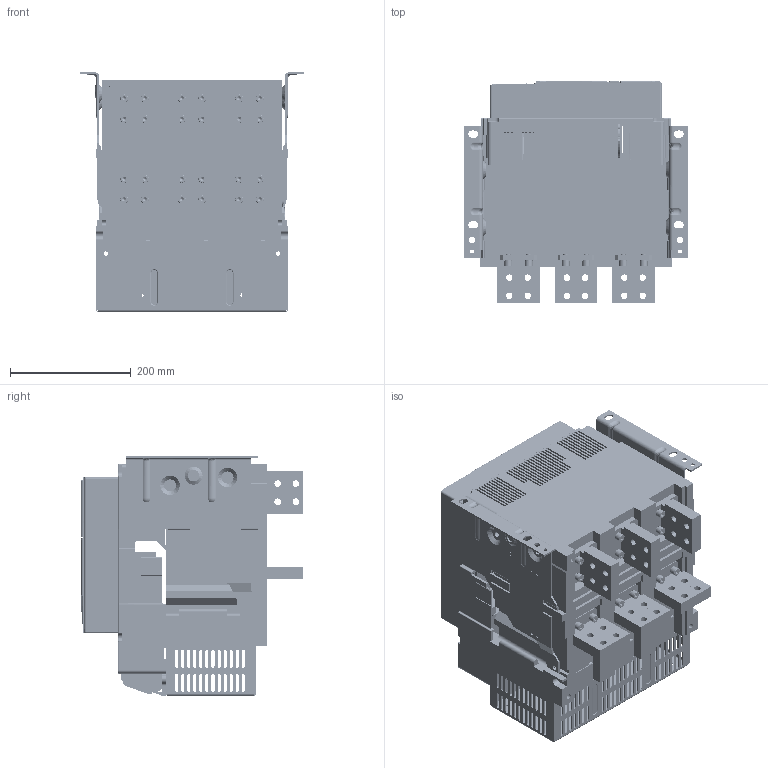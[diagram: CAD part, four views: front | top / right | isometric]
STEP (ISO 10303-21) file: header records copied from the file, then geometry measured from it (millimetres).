
FILE_DESCRIPTION((''),'2;1');
FILE_NAME('NA8-2500H-3P-F-2000A-2500A-HV_ASM','2021-11-08T10:05:37',('lcc'),(''),'CREO PARAMETRIC BY PTC INC, 2020044','CREO PARAMETRIC BY PTC INC, 2020044','');
FILE_SCHEMA(('CONFIG_CONTROL_DESIGN','SHAPE_APPEARANCE_LAYERS_GROUPS'));
Products named in the file (30): 2500-JIZUO-3P; 2500-DIBAN-3P; 8ZTD_123_166_A; 8ZTD_123_167_A; 8060A0306108; 8060A0306109; 8ZTD_060_208_V4; 8ZTD_253_781; 8ZTD_253_577; 8282A0820014; 8ZTD_321_090; 8ZTD_253_780; 8ZTD_253_779; 8ZTD_282_1203_AF0; 5ZTD_060_113_2_ASM; 8ZTD_300_A051; 8ZTD_253_782; 8ZTD-064-138; 8ZTD-024-689; 8ZTD-860-511; 1600-DUANZI-CTS_ASM; 8-040-432; 8-004-030; 8-320-094; 8-860-KZQ; 8580A0412108; GBT93_8; GBT70_1_M8X20; Q_NKJ_0200012_2_M8X20_ASM; NA8-2500H-3P-F-2000A-2500A-HV_ASM
Assembly tree (71 placements, depth 3):
  NA8-2500H-3P-F-2000A-2500A-HV_ASM
    2500-JIZUO-3P
    2500-DIBAN-3P
    8ZTD_123_166_A
    8ZTD_123_167_A
    8060A0306108
    8060A0306109
    5ZTD_060_113_2_ASM
      8ZTD_060_208_V4
      8ZTD_253_781
      8ZTD_253_577
      8282A0820014
      8ZTD_321_090
      8ZTD_253_780
      8ZTD_253_779
      8ZTD_282_1203_AF0  x2
    8ZTD_300_A051
    8ZTD_253_782
    1600-DUANZI-CTS_ASM
      8ZTD-064-138
      8ZTD-024-689  x14
      8ZTD-860-511
    8-040-432
    8-004-030
    8-320-094
    8-860-KZQ
    8580A0412108  x6
    Q_NKJ_0200012_2_M8X20_ASM  x24
      GBT93_8
      GBT70_1_M8X20
Bounding box: 370 x 368.4 x 395.5 mm (x, y, z)
Volume: 16456597.4 mm3; surface area: 2305382.5 mm2
Topology: 91 solids, 141 shells, 11065 faces, 29333 edges, 19166 vertices
Faces by surface type: plane 8354, cylinder 1726, cone 398, bspline 237, extrusion 198, torus 108, sphere 38, revolution 6
Entity records: 319223 total; most frequent: CARTESIAN_POINT 72266, ORIENTED_EDGE 34756, DIRECTION 31464, PRESENTATION_STYLE_ASSIGNMENT 21794, STYLED_ITEM 21672, EDGE_CURVE 17396, CURVE_STYLE 17129, VECTOR 13168
